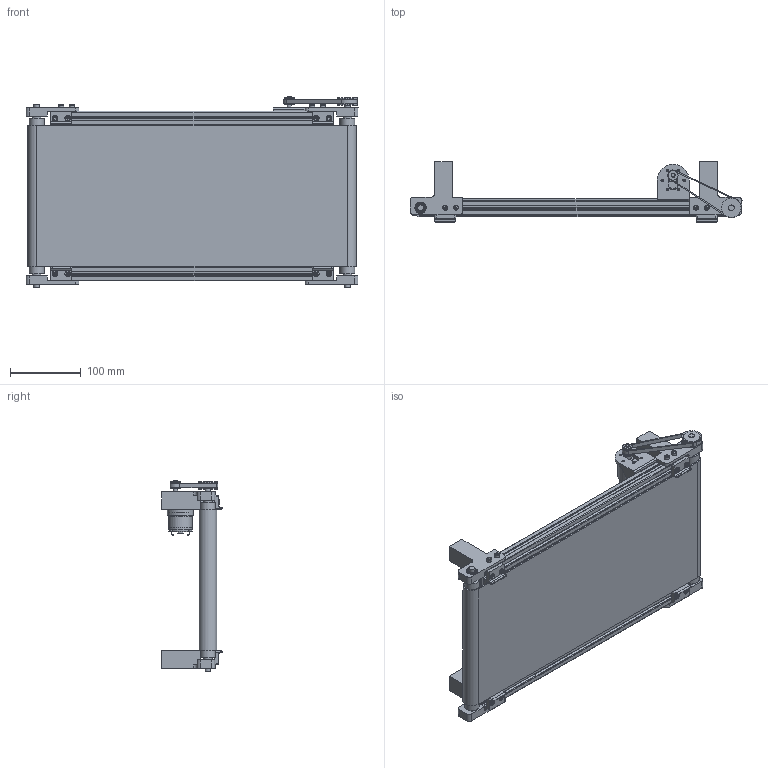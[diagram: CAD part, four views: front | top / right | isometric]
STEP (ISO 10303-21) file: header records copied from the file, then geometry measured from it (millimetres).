
FILE_DESCRIPTION(/* description */ (''),/* implementation_level */ '2;1');
FILE_NAME(/* name */ 'nastro_trasportatore.stp',/* time_stamp */ '2025-09-30T10:25:32+02:00',/* author */ ('Ryzen5700u'),/* organization */ (''),/* preprocessor_version */ 'ST-DEVELOPER v20',/* originating_system */ 'Autodesk Inventor 2025',/* authorisation */ '');
FILE_SCHEMA (('AUTOMOTIVE_DESIGN { 1 0 10303 214 3 1 1 }'));
Length unit declared in the file: millimetre
Products named in the file (26): nastro_trasportatore; tslot-20x20-1; tslot-20x20-1_MIR; tslot-20x20-2; SNSD20x20_MIR; SNSD20x20; MM-JGB37 v4_MIR_MIR; JGB37-520_MIR_MIR; lato; cilindro_01; piastra_laterale_cilindro; GT2 16 Teeth Free Pulley; GT2 Timing Pulley T40 small; piastra_laterale_cilindro_MIR; cilindro_01_MIR; piastra_laterale_cilindro_MIR1; piastra_laterale_cilindro_MIR_MIR; %3% BS 290 - SKF 618/8; cinghia; nastro; blocco_nastro; blocco_nastro_MIR; blocco_nastro_MIR1; blocco_nastro_MIR_MIR; AS 1420 - 1973 - M4 x 8; AS 1420 - 1973 - M4 x 20
Assembly tree (44 placements, depth 2):
  nastro_trasportatore
    tslot-20x20-1
    tslot-20x20-1_MIR
    tslot-20x20-2  x3
    SNSD20x20  x3
    SNSD20x20_MIR  x3
    MM-JGB37 v4_MIR_MIR
    JGB37-520_MIR_MIR
    lato
    cilindro_01
    piastra_laterale_cilindro
    GT2 16 Teeth Free Pulley
    GT2 Timing Pulley T40 small
    %3% BS 290 - SKF 618/8  x6
    piastra_laterale_cilindro_MIR
    cilindro_01_MIR
    piastra_laterale_cilindro_MIR1
    piastra_laterale_cilindro_MIR_MIR
    cinghia
    nastro
    blocco_nastro
    blocco_nastro_MIR
    blocco_nastro_MIR1
    blocco_nastro_MIR_MIR
    AS 1420 - 1973 - M4 x 8  x8
    AS 1420 - 1973 - M4 x 20  x2
Bounding box: 470.01 x 85.16 x 271.5 mm (x, y, z)
Volume: 1041832.3 mm3; surface area: 783748.8 mm2
Topology: 53 solids, 53 shells, 2195 faces, 6086 edges, 4001 vertices
Faces by surface type: plane 1238, cylinder 698, torus 154, sphere 61, cone 40, bspline 4
Full cylindrical faces by diameter (mm): 1.1 x16, 1.6 x3, 2 x3, 2.459 x1, 2.5 x6, 2.6 x3, 3 x1, 3.5 x6, 4 x13, 4.2 x8, 4.3 x12, 4.5 x8, 5 x1, 5.3 x3, 6 x4, 7 x10, 7.5 x1, 8 x23, 10.56 x12, 12 x5, 12.5 x1, 13.44 x12, 13.9 x2, 14 x4, 16 x10, 21 x2, 28 x2, 32 x2, 33 x1, 34 x1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
Entity records: 42531 total; most frequent: CARTESIAN_POINT 8341, DIRECTION 7067, ORIENTED_EDGE 6664, EDGE_CURVE 3332, AXIS2_PLACEMENT_3D 2521, VERTEX_POINT 2193, LINE 2025, VECTOR 2025
